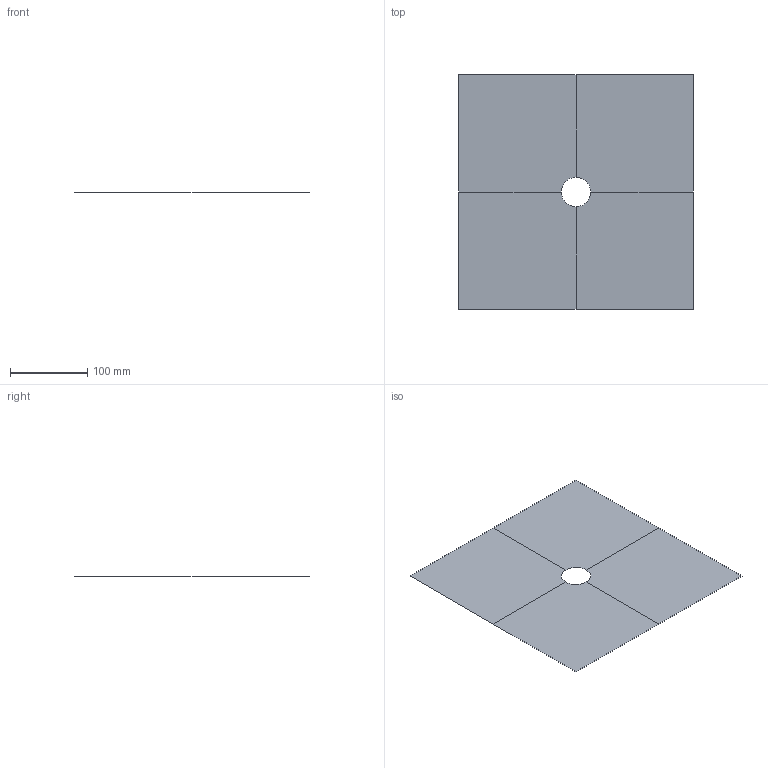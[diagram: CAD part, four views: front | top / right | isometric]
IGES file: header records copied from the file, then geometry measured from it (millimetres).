
Start section: PLATE DYNAMIC ANALYSIS
Global section: file name: plate.iges; native system: ANSYS; preprocessor:   11.0      UP20061227; date: 000110.200825; units: inch
Bounding box: 304.8 x 304.8 x 0 mm (x, y, z)
Surface area: 91762.9 mm2 (no closed solid volume)
Topology: 0 solids, 0 shells, 4 faces, 20 edges, 20 vertices
Faces by surface type: bspline 4
